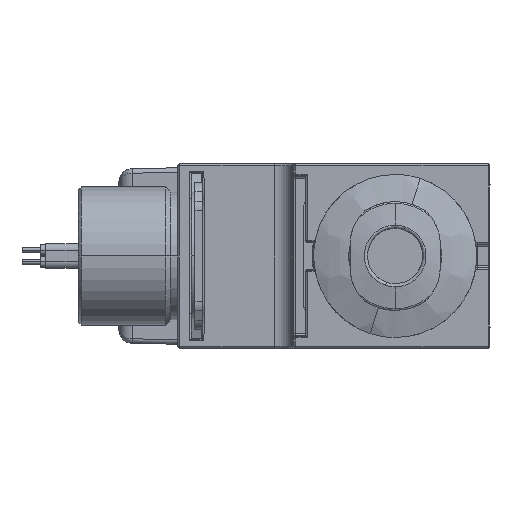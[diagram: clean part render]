
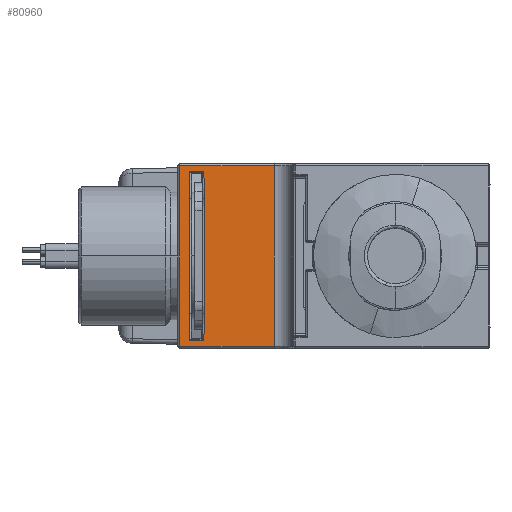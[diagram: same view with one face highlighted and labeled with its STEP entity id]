
A CAD part, left-side view. The second image highlights one B-rep face of the part: STEP entity #80960.
In plain terms, the highlighted planar face has unit normal (-1, 0, 0).
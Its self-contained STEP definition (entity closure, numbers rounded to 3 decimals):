
#1572 = DIRECTION ( 'NONE',  ( 0., 0., -1. ) ) ;
#1779 = VERTEX_POINT ( 'NONE', #46801 ) ;
#1986 = VECTOR ( 'NONE', #74991, 1000. ) ;
#3614 = CARTESIAN_POINT ( 'NONE',  ( -47.7, 20.73, -6.263 ) ) ;
#5104 = CARTESIAN_POINT ( 'NONE',  ( -47.7, 22.338, -4.201 ) ) ;
#6422 = CARTESIAN_POINT ( 'NONE',  ( -47.7, 22.338, 4.201 ) ) ;
#7900 = CARTESIAN_POINT ( 'NONE',  ( -47.7, 22.37, -6.263 ) ) ;
#7977 = EDGE_CURVE ( 'NONE', #126425, #71107, #28293, .T. ) ;
#8010 = CARTESIAN_POINT ( 'NONE',  ( -47.7, 20.772, -9.231 ) ) ;
#8106 = EDGE_LOOP ( 'NONE', ( #22283, #47908, #87734, #54774 ) ) ;
#8811 = EDGE_CURVE ( 'NONE', #98762, #92028, #125655, .T. ) ;
#9815 = ORIENTED_EDGE ( 'NONE', *, *, #50580, .F. ) ;
#12696 = DIRECTION ( 'NONE',  ( 0., 1., 0. ) ) ;
#13153 = CARTESIAN_POINT ( 'NONE',  ( -47.7, 20.73, 6.263 ) ) ;
#13364 = CARTESIAN_POINT ( 'NONE',  ( -47.7, 23.4, 29.123 ) ) ;
#15695 = AXIS2_PLACEMENT_3D ( 'NONE', #41447, #125232, #1572 ) ;
#15850 = VERTEX_POINT ( 'NONE', #65910 ) ;
#16252 = CARTESIAN_POINT ( 'NONE',  ( -47.7, 13.119, 9.8 ) ) ;
#17124 = LINE ( 'NONE', #7900, #101295 ) ;
#18738 = DIRECTION ( 'NONE',  ( 0., 0.014, 1. ) ) ;
#18941 = VECTOR ( 'NONE', #12696, 1000. ) ;
#20787 = ORIENTED_EDGE ( 'NONE', *, *, #104056, .F. ) ;
#20878 = DIRECTION ( 'NONE',  ( 0., 0., 1. ) ) ;
#22283 = ORIENTED_EDGE ( 'NONE', *, *, #118995, .F. ) ;
#23336 = CARTESIAN_POINT ( 'NONE',  ( -47.7, 22.328, 9.231 ) ) ;
#24650 = LINE ( 'NONE', #55256, #67642 ) ;
#25521 = VERTEX_POINT ( 'NONE', #95879 ) ;
#25799 = DIRECTION ( 'NONE',  ( 0., -0.014, -1. ) ) ;
#25908 = EDGE_CURVE ( 'NONE', #66930, #1779, #17124, .T. ) ;
#27294 = CARTESIAN_POINT ( 'NONE',  ( -47.7, 23.4, -9.8 ) ) ;
#28293 =( BOUNDED_CURVE ( )  B_SPLINE_CURVE ( 3, ( #3614, #55421, #96012, #44142, #35411, #89924, #58691, #78030, #46710, #48049 ),
 .UNSPECIFIED., .F., .F. ) 
 B_SPLINE_CURVE_WITH_KNOTS ( ( 4, 2, 2, 2, 4 ),
 ( 0., 0.247, 0.5, 0.753, 1. ),
 .UNSPECIFIED. ) 
 CURVE ( )  GEOMETRIC_REPRESENTATION_ITEM ( )  RATIONAL_B_SPLINE_CURVE ( ( 1., 1., 1., 1., 1., 1., 1., 1., 1., 1. ) ) 
 REPRESENTATION_ITEM ( '' )  );
#30209 = LINE ( 'NONE', #31545, #125490 ) ;
#31545 = CARTESIAN_POINT ( 'NONE',  ( -47.7, 13.119, -10. ) ) ;
#32127 = ORIENTED_EDGE ( 'NONE', *, *, #48720, .F. ) ;
#33189 = DIRECTION ( 'NONE',  ( 0., 1., 0. ) ) ;
#34564 = LINE ( 'NONE', #85207, #18941 ) ;
#35411 = CARTESIAN_POINT ( 'NONE',  ( -47.7, 20.781, -1.056 ) ) ;
#35658 = CARTESIAN_POINT ( 'NONE',  ( -47.7, -10.3, 9.8 ) ) ;
#35709 = VERTEX_POINT ( 'NONE', #8010 ) ;
#37496 = EDGE_CURVE ( 'NONE', #77620, #25521, #104582, .T. ) ;
#38234 = CARTESIAN_POINT ( 'NONE',  ( -47.7, 22.319, -1.056 ) ) ;
#40817 = VERTEX_POINT ( 'NONE', #90618 ) ;
#40930 = LINE ( 'NONE', #110132, #82255 ) ;
#41447 = CARTESIAN_POINT ( 'NONE',  ( -47.7, 11., 29.123 ) ) ;
#43695 = ORIENTED_EDGE ( 'NONE', *, *, #7977, .F. ) ;
#44142 = CARTESIAN_POINT ( 'NONE',  ( -47.7, 20.778, -2.113 ) ) ;
#44851 = ORIENTED_EDGE ( 'NONE', *, *, #25908, .F. ) ;
#45209 = EDGE_CURVE ( 'NONE', #25521, #71881, #85005, .T. ) ;
#46710 = CARTESIAN_POINT ( 'NONE',  ( -47.7, 20.751, 5.232 ) ) ;
#46801 = CARTESIAN_POINT ( 'NONE',  ( -47.7, 22.328, -9.231 ) ) ;
#47908 = ORIENTED_EDGE ( 'NONE', *, *, #67275, .T. ) ;
#48049 = CARTESIAN_POINT ( 'NONE',  ( -47.7, 20.73, 6.263 ) ) ;
#48720 = EDGE_CURVE ( 'NONE', #35709, #126425, #40930, .T. ) ;
#50580 = EDGE_CURVE ( 'NONE', #40817, #66930, #70149, .T. ) ;
#53149 = CARTESIAN_POINT ( 'NONE',  ( -47.7, 11., 9.231 ) ) ;
#53931 = DIRECTION ( 'NONE',  ( 0., 0., 1. ) ) ;
#54774 = ORIENTED_EDGE ( 'NONE', *, *, #37496, .F. ) ;
#55209 = VECTOR ( 'NONE', #74589, 1000. ) ;
#55256 = CARTESIAN_POINT ( 'NONE',  ( -47.7, 11., -9.231 ) ) ;
#55421 = CARTESIAN_POINT ( 'NONE',  ( -47.7, 20.751, -5.232 ) ) ;
#55611 = CARTESIAN_POINT ( 'NONE',  ( -47.7, 22.349, 5.232 ) ) ;
#58691 = CARTESIAN_POINT ( 'NONE',  ( -47.7, 20.778, 2.113 ) ) ;
#65609 = CARTESIAN_POINT ( 'NONE',  ( -47.7, 22.322, -2.113 ) ) ;
#65910 = CARTESIAN_POINT ( 'NONE',  ( -47.7, 13.119, -9.8 ) ) ;
#66930 = VERTEX_POINT ( 'NONE', #124354 ) ;
#67275 = EDGE_CURVE ( 'NONE', #15850, #71881, #30209, .T. ) ;
#67642 = VECTOR ( 'NONE', #95850, 1000. ) ;
#70149 =( BOUNDED_CURVE ( )  B_SPLINE_CURVE ( 3, ( #107488, #55611, #6422, #98856, #129472, #38234, #65609, #5104, #126817, #70212 ),
 .UNSPECIFIED., .F., .F. ) 
 B_SPLINE_CURVE_WITH_KNOTS ( ( 4, 2, 2, 2, 4 ),
 ( 0., 0.247, 0.5, 0.753, 1. ),
 .UNSPECIFIED. ) 
 CURVE ( )  GEOMETRIC_REPRESENTATION_ITEM ( )  RATIONAL_B_SPLINE_CURVE ( ( 1., 1., 1., 1., 1., 1., 1., 1., 1., 1. ) ) 
 REPRESENTATION_ITEM ( '' )  );
#70212 = CARTESIAN_POINT ( 'NONE',  ( -47.7, 22.37, -6.263 ) ) ;
#71107 = VERTEX_POINT ( 'NONE', #13153 ) ;
#71881 = VERTEX_POINT ( 'NONE', #16252 ) ;
#73356 = EDGE_LOOP ( 'NONE', ( #32127, #79648, #44851, #9815, #20787, #75581, #125918, #43695 ) ) ;
#73407 = PLANE ( 'NONE',  #15695 ) ;
#74589 = DIRECTION ( 'NONE',  ( 0., 0.014, -1. ) ) ;
#74991 = DIRECTION ( 'NONE',  ( 0., -1., 0. ) ) ;
#75581 = ORIENTED_EDGE ( 'NONE', *, *, #8811, .F. ) ;
#75802 = EDGE_CURVE ( 'NONE', #1779, #35709, #24650, .T. ) ;
#77620 = VERTEX_POINT ( 'NONE', #27294 ) ;
#78030 = CARTESIAN_POINT ( 'NONE',  ( -47.7, 20.762, 4.201 ) ) ;
#79648 = ORIENTED_EDGE ( 'NONE', *, *, #75802, .F. ) ;
#80960 = ADVANCED_FACE ( 'NONE', ( #114574, #103403 ), #73407, .F. ) ;
#81545 = DIRECTION ( 'NONE',  ( 0., -0.014, 1. ) ) ;
#82255 = VECTOR ( 'NONE', #81545, 1000. ) ;
#82625 = LINE ( 'NONE', #23336, #55209 ) ;
#85005 = LINE ( 'NONE', #35658, #1986 ) ;
#85207 = CARTESIAN_POINT ( 'NONE',  ( -47.7, 11., -9.8 ) ) ;
#86241 = CARTESIAN_POINT ( 'NONE',  ( -47.7, 20.73, -6.263 ) ) ;
#87503 = VECTOR ( 'NONE', #33189, 1000. ) ;
#87734 = ORIENTED_EDGE ( 'NONE', *, *, #45209, .F. ) ;
#89924 = CARTESIAN_POINT ( 'NONE',  ( -47.7, 20.781, 1.056 ) ) ;
#90618 = CARTESIAN_POINT ( 'NONE',  ( -47.7, 22.37, 6.263 ) ) ;
#90810 = CARTESIAN_POINT ( 'NONE',  ( -47.7, 22.328, 9.231 ) ) ;
#92028 = VERTEX_POINT ( 'NONE', #90810 ) ;
#95850 = DIRECTION ( 'NONE',  ( 0., -1., 0. ) ) ;
#95879 = CARTESIAN_POINT ( 'NONE',  ( -47.7, 23.4, 9.8 ) ) ;
#96012 = CARTESIAN_POINT ( 'NONE',  ( -47.7, 20.762, -4.201 ) ) ;
#98762 = VERTEX_POINT ( 'NONE', #122160 ) ;
#98856 = CARTESIAN_POINT ( 'NONE',  ( -47.7, 22.322, 2.113 ) ) ;
#101295 = VECTOR ( 'NONE', #25799, 1000. ) ;
#103403 = FACE_BOUND ( 'NONE', #73356, .T. ) ;
#104056 = EDGE_CURVE ( 'NONE', #92028, #40817, #82625, .T. ) ;
#104582 = LINE ( 'NONE', #13364, #106590 ) ;
#106590 = VECTOR ( 'NONE', #53931, 1000. ) ;
#107488 = CARTESIAN_POINT ( 'NONE',  ( -47.7, 22.37, 6.263 ) ) ;
#109452 = VECTOR ( 'NONE', #18738, 1000. ) ;
#110132 = CARTESIAN_POINT ( 'NONE',  ( -47.7, 20.772, -9.231 ) ) ;
#114574 = FACE_OUTER_BOUND ( 'NONE', #8106, .T. ) ;
#118995 = EDGE_CURVE ( 'NONE', #15850, #77620, #34564, .T. ) ;
#122160 = CARTESIAN_POINT ( 'NONE',  ( -47.7, 20.772, 9.231 ) ) ;
#124354 = CARTESIAN_POINT ( 'NONE',  ( -47.7, 22.37, -6.263 ) ) ;
#125232 = DIRECTION ( 'NONE',  ( 1., 0., 0. ) ) ;
#125490 = VECTOR ( 'NONE', #20878, 1000. ) ;
#125655 = LINE ( 'NONE', #53149, #87503 ) ;
#125918 = ORIENTED_EDGE ( 'NONE', *, *, #125976, .F. ) ;
#125976 = EDGE_CURVE ( 'NONE', #71107, #98762, #129317, .T. ) ;
#126425 = VERTEX_POINT ( 'NONE', #86241 ) ;
#126817 = CARTESIAN_POINT ( 'NONE',  ( -47.7, 22.349, -5.232 ) ) ;
#129317 = LINE ( 'NONE', #129974, #109452 ) ;
#129472 = CARTESIAN_POINT ( 'NONE',  ( -47.7, 22.319, 1.056 ) ) ;
#129974 = CARTESIAN_POINT ( 'NONE',  ( -47.7, 20.73, 6.263 ) ) ;
